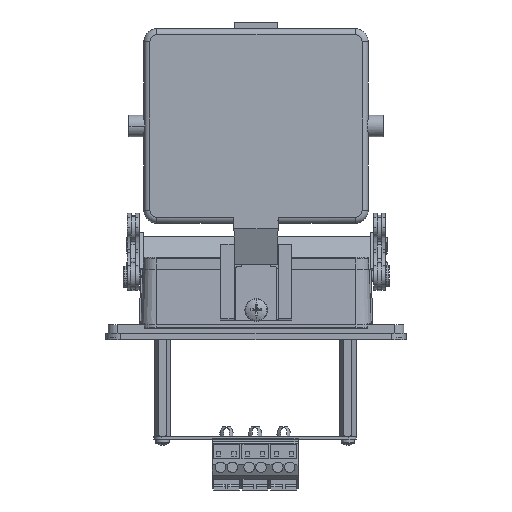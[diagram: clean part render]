
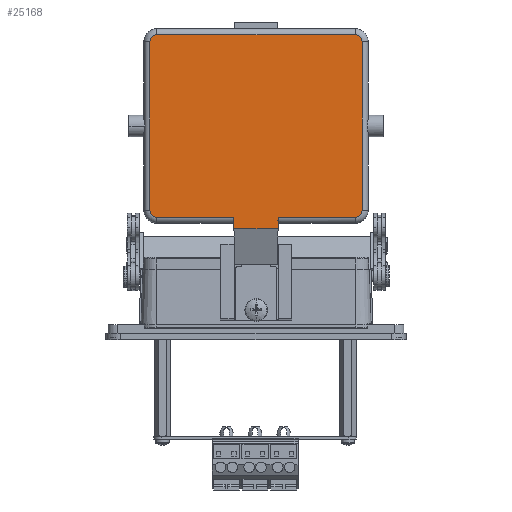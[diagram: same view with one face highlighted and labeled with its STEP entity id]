
A CAD part, front view. The second image highlights one B-rep face of the part: STEP entity #25168.
In plain terms, the highlighted planar face has unit normal (0, -1, -0.002).
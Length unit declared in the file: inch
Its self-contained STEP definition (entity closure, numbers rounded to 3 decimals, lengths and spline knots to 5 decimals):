
#3309 = AXIS2_PLACEMENT_3D ( 'NONE', #44084, #44085, #44086 ) ;
#3321 = AXIS2_PLACEMENT_3D ( 'NONE', #44089, #44090, #44091 ) ;
#3330 = AXIS2_PLACEMENT_3D ( 'NONE', #44304, #44307, #44310 ) ;
#3343 = AXIS2_PLACEMENT_3D ( 'NONE', #44760, #44761, #44764 ) ;
#4158 = VERTEX_POINT ( 'NONE', #91691 ) ;
#4160 = VERTEX_POINT ( 'NONE', #91693 ) ;
#4162 = VERTEX_POINT ( 'NONE', #91695 ) ;
#4163 = VERTEX_POINT ( 'NONE', #91696 ) ;
#4164 = VERTEX_POINT ( 'NONE', #91697 ) ;
#4180 = VERTEX_POINT ( 'NONE', #91724 ) ;
#4183 = VERTEX_POINT ( 'NONE', #91728 ) ;
#4201 = VERTEX_POINT ( 'NONE', #91753 ) ;
#4202 = VERTEX_POINT ( 'NONE', #91755 ) ;
#4208 = VERTEX_POINT ( 'NONE', #91761 ) ;
#4209 = VERTEX_POINT ( 'NONE', #91763 ) ;
#4210 = VERTEX_POINT ( 'NONE', #91764 ) ;
#7765 = ORIENTED_EDGE ( 'NONE', *, *, #80464, .T. ) ;
#7887 = ORIENTED_EDGE ( 'NONE', *, *, #65433, .T. ) ;
#7892 = ORIENTED_EDGE ( 'NONE', *, *, #65482, .T. ) ;
#7896 = ORIENTED_EDGE ( 'NONE', *, *, #65503, .T. ) ;
#7904 = ORIENTED_EDGE ( 'NONE', *, *, #65418, .T. ) ;
#7908 = ORIENTED_EDGE ( 'NONE', *, *, #65446, .T. ) ;
#7992 = ORIENTED_EDGE ( 'NONE', *, *, #80456, .F. ) ;
#7997 = ORIENTED_EDGE ( 'NONE', *, *, #65470, .T. ) ;
#8004 = ORIENTED_EDGE ( 'NONE', *, *, #65479, .T. ) ;
#8005 = ORIENTED_EDGE ( 'NONE', *, *, #65457, .F. ) ;
#8007 = ORIENTED_EDGE ( 'NONE', *, *, #80551, .T. ) ;
#22525 = ORIENTED_EDGE ( 'NONE', *, *, #65417, .T. ) ;
#25168 = ADVANCED_FACE ( 'NONE', ( #69293 ), #81704, .F. ) ;
#26640 = LINE ( 'NONE', #46387, #26648 ) ;
#26648 = VECTOR ( 'NONE', #46388, 39.37008 ) ;
#35294 = AXIS2_PLACEMENT_3D ( 'NONE', #81744, #81746, #81748 ) ;
#42286 = CIRCLE ( 'NONE', #3321, 0.11462 ) ;
#42294 = CIRCLE ( 'NONE', #3309, 0.11462 ) ;
#42329 = LINE ( 'NONE', #44178, #42332 ) ;
#42332 = VECTOR ( 'NONE', #44183, 39.37008 ) ;
#42358 = CIRCLE ( 'NONE', #3330, 0.11462 ) ;
#42379 = LINE ( 'NONE', #44345, #42381 ) ;
#42381 = VECTOR ( 'NONE', #44371, 39.37008 ) ;
#42404 = LINE ( 'NONE', #44523, #42411 ) ;
#42411 = VECTOR ( 'NONE', #44525, 39.37008 ) ;
#42429 = LINE ( 'NONE', #44571, #42433 ) ;
#42433 = VECTOR ( 'NONE', #44575, 39.37008 ) ;
#42437 = LINE ( 'NONE', #44597, #42443 ) ;
#42443 = VECTOR ( 'NONE', #44602, 39.37008 ) ;
#42489 = CIRCLE ( 'NONE', #3343, 0.11462 ) ;
#42933 = LINE ( 'NONE', #46152, #42941 ) ;
#42941 = VECTOR ( 'NONE', #46159, 39.37008 ) ;
#42954 = LINE ( 'NONE', #46168, #42960 ) ;
#42960 = VECTOR ( 'NONE', #46175, 39.37008 ) ;
#44084 = CARTESIAN_POINT ( 'NONE',  ( -1.636, -2.60832, 2.09027 ) ) ;
#44085 = DIRECTION ( 'NONE',  ( 0., -1., -0.002 ) ) ;
#44086 = DIRECTION ( 'NONE',  ( -1., 0., 0. ) ) ;
#44089 = CARTESIAN_POINT ( 'NONE',  ( 1.636, -2.61479, 4.87427 ) ) ;
#44090 = DIRECTION ( 'NONE',  ( 0., -1., -0.002 ) ) ;
#44091 = DIRECTION ( 'NONE',  ( -1., 0., 0. ) ) ;
#44178 = CARTESIAN_POINT ( 'NONE',  ( 1.75062, -2.61479, 4.87427 ) ) ;
#44183 = DIRECTION ( 'NONE',  ( 0., -0.002, 1. ) ) ;
#44304 = CARTESIAN_POINT ( 'NONE',  ( 1.636, -2.60832, 2.09027 ) ) ;
#44307 = DIRECTION ( 'NONE',  ( 0., -1., -0.002 ) ) ;
#44310 = DIRECTION ( 'NONE',  ( -1., 0., 0. ) ) ;
#44345 = CARTESIAN_POINT ( 'NONE',  ( 0.36338, -2.601, -1.05577 ) ) ;
#44371 = DIRECTION ( 'NONE',  ( 0., 0.002, -1. ) ) ;
#44523 = CARTESIAN_POINT ( 'NONE',  ( -1.75062, -2.601, -1.05577 ) ) ;
#44525 = DIRECTION ( 'NONE',  ( 0., 0.002, -1. ) ) ;
#44571 = CARTESIAN_POINT ( 'NONE',  ( 0., -2.60761, 1.78597 ) ) ;
#44575 = DIRECTION ( 'NONE',  ( 1., 0., 0. ) ) ;
#44597 = CARTESIAN_POINT ( 'NONE',  ( 0., -2.61506, 4.98888 ) ) ;
#44602 = DIRECTION ( 'NONE',  ( -1., 0., 0. ) ) ;
#44760 = CARTESIAN_POINT ( 'NONE',  ( -1.636, -2.61479, 4.87427 ) ) ;
#44761 = DIRECTION ( 'NONE',  ( 0., -1., -0.002 ) ) ;
#44764 = DIRECTION ( 'NONE',  ( -1., 0., 0. ) ) ;
#46152 = CARTESIAN_POINT ( 'NONE',  ( -0.36338, -2.601, -1.05577 ) ) ;
#46159 = DIRECTION ( 'NONE',  ( 0., -0.002, 1. ) ) ;
#46168 = CARTESIAN_POINT ( 'NONE',  ( 1.636, -2.60805, 1.97566 ) ) ;
#46175 = DIRECTION ( 'NONE',  ( 1., 0., 0. ) ) ;
#46387 = CARTESIAN_POINT ( 'NONE',  ( -0.36338, -2.60805, 1.97566 ) ) ;
#46388 = DIRECTION ( 'NONE',  ( 1., 0., 0. ) ) ;
#65417 = EDGE_CURVE ( 'NONE', #4210, #4162, #42294, .T. ) ;
#65418 = EDGE_CURVE ( 'NONE', #4180, #4202, #42286, .T. ) ;
#65433 = EDGE_CURVE ( 'NONE', #4183, #4180, #42329, .T. ) ;
#65446 = EDGE_CURVE ( 'NONE', #4160, #4183, #42358, .T. ) ;
#65457 = EDGE_CURVE ( 'NONE', #4158, #4201, #42379, .T. ) ;
#65470 = EDGE_CURVE ( 'NONE', #4209, #4210, #42404, .T. ) ;
#65479 = EDGE_CURVE ( 'NONE', #4163, #4201, #42429, .T. ) ;
#65482 = EDGE_CURVE ( 'NONE', #4202, #4208, #42437, .T. ) ;
#65503 = EDGE_CURVE ( 'NONE', #4208, #4209, #42489, .T. ) ;
#69293 = FACE_OUTER_BOUND ( 'NONE', #106028, .T. ) ;
#80456 = EDGE_CURVE ( 'NONE', #4163, #4164, #42933, .T. ) ;
#80464 = EDGE_CURVE ( 'NONE', #4158, #4160, #42954, .T. ) ;
#80551 = EDGE_CURVE ( 'NONE', #4162, #4164, #26640, .T. ) ;
#81704 = PLANE ( 'NONE',  #35294 ) ;
#81744 = CARTESIAN_POINT ( 'NONE',  ( 0., -2.601, -1.05577 ) ) ;
#81746 = DIRECTION ( 'NONE',  ( 0., 1., 0.002 ) ) ;
#81748 = DIRECTION ( 'NONE',  ( -1., 0., 0. ) ) ;
#91691 = CARTESIAN_POINT ( 'NONE',  ( 0.36338, -2.60805, 1.97566 ) ) ;
#91693 = CARTESIAN_POINT ( 'NONE',  ( 1.636, -2.60805, 1.97566 ) ) ;
#91695 = CARTESIAN_POINT ( 'NONE',  ( -1.636, -2.60805, 1.97566 ) ) ;
#91696 = CARTESIAN_POINT ( 'NONE',  ( -0.36338, -2.60761, 1.78597 ) ) ;
#91697 = CARTESIAN_POINT ( 'NONE',  ( -0.36338, -2.60805, 1.97566 ) ) ;
#91724 = CARTESIAN_POINT ( 'NONE',  ( 1.75062, -2.61479, 4.87427 ) ) ;
#91728 = CARTESIAN_POINT ( 'NONE',  ( 1.75062, -2.60832, 2.09027 ) ) ;
#91753 = CARTESIAN_POINT ( 'NONE',  ( 0.36338, -2.60761, 1.78597 ) ) ;
#91755 = CARTESIAN_POINT ( 'NONE',  ( 1.636, -2.61506, 4.98888 ) ) ;
#91761 = CARTESIAN_POINT ( 'NONE',  ( -1.636, -2.61506, 4.98888 ) ) ;
#91763 = CARTESIAN_POINT ( 'NONE',  ( -1.75062, -2.61479, 4.87427 ) ) ;
#91764 = CARTESIAN_POINT ( 'NONE',  ( -1.75062, -2.60832, 2.09027 ) ) ;
#106028 = EDGE_LOOP ( 'NONE', ( #7992, #8004, #8005, #7765, #7908, #7887, #7904, #7892, #7896, #7997, #22525, #8007 ) ) ;
